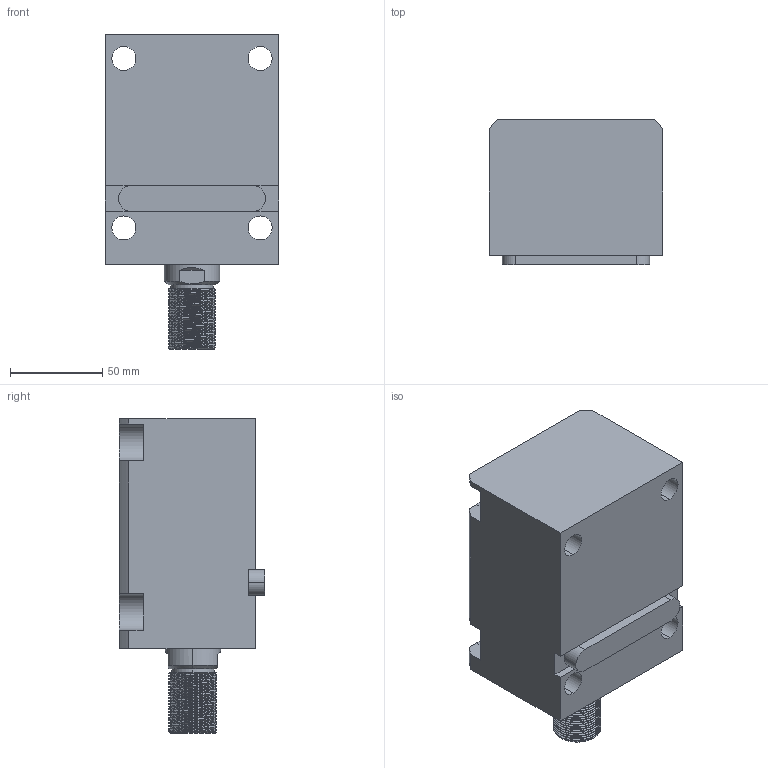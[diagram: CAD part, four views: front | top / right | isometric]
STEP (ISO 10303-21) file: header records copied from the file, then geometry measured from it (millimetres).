
FILE_DESCRIPTION (( 'STEP AP203' ), '1' );
FILE_NAME ('CHTB-LA50-65W.STEP', '2018-05-18T01:42:34', ( '' ), ( '' ), 'SwSTEP 2.0', 'SolidWorks 2015', '' );
FILE_SCHEMA (( 'CONFIG_CONTROL_DESIGN' ));
Length unit declared in the file: millimetre
Products named in the file (4): 活塞杆LA50-65W; CHTM-SDMA50QG; CHTB-LA50-65W; 掛极LA50-65W
Assembly tree (3 placements, depth 2):
  CHTB-LA50-65W
    掛极LA50-65W
    活塞杆LA50-65W
    CHTM-SDMA50QG
Bounding box: 94 x 79 x 171 mm (x, y, z)
Volume: 757589.6 mm3; surface area: 124620.8 mm2
Topology: 3 solids, 3 shells, 244 faces, 670 edges, 447 vertices
Faces by surface type: cylinder 136, plane 55, cone 21, bspline 16, torus 16
Entity records: 15046 total; most frequent: CARTESIAN_POINT 8903, ORIENTED_EDGE 1332, DIRECTION 1073, EDGE_CURVE 666, VERTEX_POINT 447, AXIS2_PLACEMENT_3D 416, EDGE_LOOP 277, ADVANCED_FACE 244
